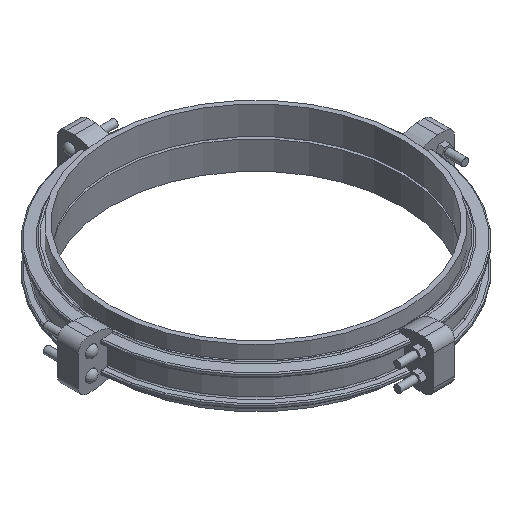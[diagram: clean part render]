
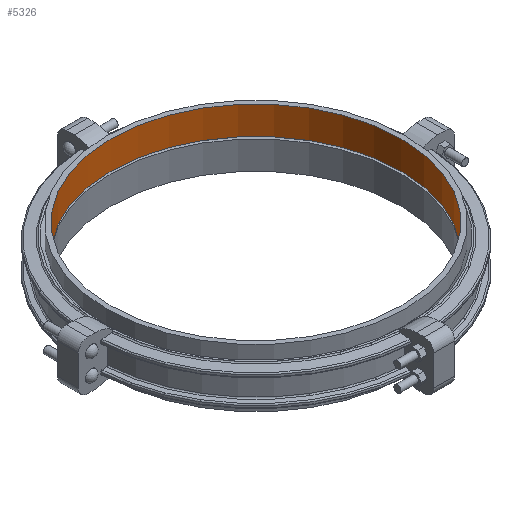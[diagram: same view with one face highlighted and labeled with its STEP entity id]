
A CAD part, isometric view. The second image highlights one B-rep face of the part: STEP entity #5326.
In plain terms, the highlighted cylindrical face has radius 787.4 mm (diameter 1574.8 mm), a full revolution.
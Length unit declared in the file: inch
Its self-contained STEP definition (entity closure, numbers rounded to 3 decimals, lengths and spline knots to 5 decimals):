
#270=CYLINDRICAL_SURFACE('',#5937,31.);
#588=FACE_OUTER_BOUND('',#906,.T.);
#906=EDGE_LOOP('',(#4630,#4631,#4632,#4633,#4634,#4635));
#1291=LINE('',#10065,#1674);
#1674=VECTOR('',#7388,31.);
#1927=CIRCLE('',#5935,31.);
#1928=CIRCLE('',#5936,31.);
#1929=CIRCLE('',#5938,31.);
#1930=CIRCLE('',#5939,31.);
#2431=VERTEX_POINT('',#10059);
#2432=VERTEX_POINT('',#10060);
#2433=VERTEX_POINT('',#10064);
#2434=VERTEX_POINT('',#10066);
#3165=EDGE_CURVE('',#2431,#2432,#1927,.T.);
#3166=EDGE_CURVE('',#2432,#2431,#1928,.T.);
#3167=EDGE_CURVE('',#2432,#2433,#1291,.T.);
#3168=EDGE_CURVE('',#2434,#2433,#1929,.T.);
#3169=EDGE_CURVE('',#2433,#2434,#1930,.T.);
#4630=ORIENTED_EDGE('',*,*,#3165,.T.);
#4631=ORIENTED_EDGE('',*,*,#3167,.T.);
#4632=ORIENTED_EDGE('',*,*,#3168,.F.);
#4633=ORIENTED_EDGE('',*,*,#3169,.F.);
#4634=ORIENTED_EDGE('',*,*,#3167,.F.);
#4635=ORIENTED_EDGE('',*,*,#3166,.T.);
#5326=ADVANCED_FACE('',(#588),#270,.F.);
#5935=AXIS2_PLACEMENT_3D('',#10061,#7382,#7383);
#5936=AXIS2_PLACEMENT_3D('',#10062,#7384,#7385);
#5937=AXIS2_PLACEMENT_3D('',#10063,#7386,#7387);
#5938=AXIS2_PLACEMENT_3D('',#10067,#7389,#7390);
#5939=AXIS2_PLACEMENT_3D('',#10068,#7391,#7392);
#7382=DIRECTION('center_axis',(0.,0.,-1.));
#7383=DIRECTION('ref_axis',(1.,0.,0.));
#7384=DIRECTION('center_axis',(0.,0.,-1.));
#7385=DIRECTION('ref_axis',(1.,0.,0.));
#7386=DIRECTION('center_axis',(0.,0.,-1.));
#7387=DIRECTION('ref_axis',(0.,1.,0.));
#7388=DIRECTION('',(0.,0.,1.));
#7389=DIRECTION('center_axis',(0.,0.,-1.));
#7390=DIRECTION('ref_axis',(1.,0.,0.));
#7391=DIRECTION('center_axis',(0.,0.,-1.));
#7392=DIRECTION('ref_axis',(1.,0.,0.));
#10059=CARTESIAN_POINT('',(0.,31.,0.));
#10060=CARTESIAN_POINT('',(0.,-31.,0.));
#10061=CARTESIAN_POINT('Origin',(0.,0.,0.));
#10062=CARTESIAN_POINT('Origin',(0.,0.,0.));
#10063=CARTESIAN_POINT('Origin',(0.,0.,3.));
#10064=CARTESIAN_POINT('',(0.,-31.,6.));
#10065=CARTESIAN_POINT('',(0.,-31.,3.));
#10066=CARTESIAN_POINT('',(0.,31.,6.));
#10067=CARTESIAN_POINT('Origin',(0.,0.,6.));
#10068=CARTESIAN_POINT('Origin',(0.,0.,6.));
